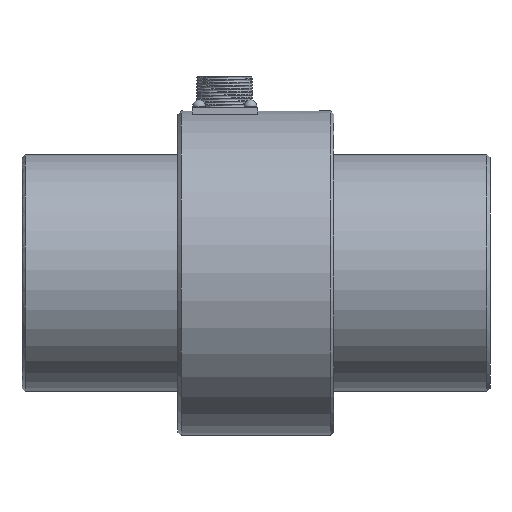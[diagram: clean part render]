
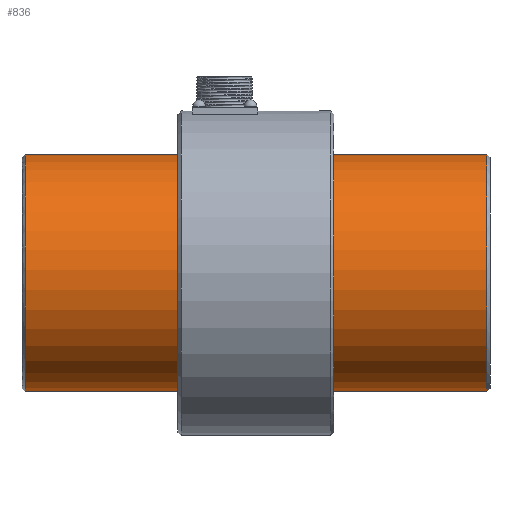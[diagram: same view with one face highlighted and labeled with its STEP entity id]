
A CAD part, top view. The second image highlights one B-rep face of the part: STEP entity #836.
In plain terms, the highlighted cylindrical face has radius 38 mm (diameter 76 mm), a full revolution.
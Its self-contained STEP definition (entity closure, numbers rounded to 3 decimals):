
#96=FACE_OUTER_BOUND('',#151,.T.);
#151=EDGE_LOOP('',(#687,#688,#689,#690,#691,#692,#693,#694,#695,#696,#697,
#698));
#190=CIRCLE('',#938,38.);
#191=CIRCLE('',#939,38.);
#195=CIRCLE('',#944,38.);
#196=CIRCLE('',#945,38.);
#224=B_SPLINE_CURVE_WITH_KNOTS('',3,(#3385,#3386,#3387,#3388,#3389,#3390,
#3391,#3392,#3393,#3394,#3395,#3396,#3397,#3398,#3399,#3400,#3401,#3402),
 .UNSPECIFIED.,.F.,.F.,(4,2,2,2,2,2,2,2,4),(-3.029,-2.65,
-2.272,-1.893,-1.514,-1.136,
-0.757,-0.379,0.),.UNSPECIFIED.);
#225=B_SPLINE_CURVE_WITH_KNOTS('',3,(#3407,#3408,#3409,#3410,#3411,#3412,
#3413,#3414,#3415,#3416,#3417,#3418,#3419,#3420,#3421,#3422,#3423,#3424),
 .UNSPECIFIED.,.F.,.F.,(4,2,2,2,2,2,2,2,4),(-6.058,-5.679,
-5.301,-4.922,-4.543,-4.165,
-3.786,-3.408,-3.029),.UNSPECIFIED.);
#256=LINE('',#3381,#305);
#257=LINE('',#3383,#306);
#258=LINE('',#3403,#307);
#259=LINE('',#3405,#308);
#260=LINE('',#3425,#309);
#305=VECTOR('',#1144,38.);
#306=VECTOR('',#1145,1000.);
#307=VECTOR('',#1146,1000.);
#308=VECTOR('',#1147,1000.);
#309=VECTOR('',#1148,1000.);
#381=VERTEX_POINT('',#3362);
#382=VERTEX_POINT('',#3364);
#383=VERTEX_POINT('',#3366);
#386=VERTEX_POINT('',#3373);
#387=VERTEX_POINT('',#3375);
#388=VERTEX_POINT('',#3377);
#389=VERTEX_POINT('',#3382);
#390=VERTEX_POINT('',#3384);
#391=VERTEX_POINT('',#3404);
#392=VERTEX_POINT('',#3406);
#484=EDGE_CURVE('',#382,#381,#190,.T.);
#485=EDGE_CURVE('',#383,#382,#191,.T.);
#489=EDGE_CURVE('',#387,#386,#195,.T.);
#490=EDGE_CURVE('',#388,#387,#196,.T.);
#492=EDGE_CURVE('',#382,#387,#256,.T.);
#493=EDGE_CURVE('',#386,#389,#257,.T.);
#494=EDGE_CURVE('',#389,#390,#224,.T.);
#495=EDGE_CURVE('',#390,#388,#258,.T.);
#496=EDGE_CURVE('',#381,#391,#259,.T.);
#497=EDGE_CURVE('',#391,#392,#225,.T.);
#498=EDGE_CURVE('',#392,#383,#260,.T.);
#687=ORIENTED_EDGE('',*,*,#485,.T.);
#688=ORIENTED_EDGE('',*,*,#492,.T.);
#689=ORIENTED_EDGE('',*,*,#489,.T.);
#690=ORIENTED_EDGE('',*,*,#493,.T.);
#691=ORIENTED_EDGE('',*,*,#494,.T.);
#692=ORIENTED_EDGE('',*,*,#495,.T.);
#693=ORIENTED_EDGE('',*,*,#490,.T.);
#694=ORIENTED_EDGE('',*,*,#492,.F.);
#695=ORIENTED_EDGE('',*,*,#484,.T.);
#696=ORIENTED_EDGE('',*,*,#496,.T.);
#697=ORIENTED_EDGE('',*,*,#497,.T.);
#698=ORIENTED_EDGE('',*,*,#498,.T.);
#761=CYLINDRICAL_SURFACE('',#947,38.);
#836=ADVANCED_FACE('',(#96),#761,.T.);
#938=AXIS2_PLACEMENT_3D('',#3365,#1124,#1125);
#939=AXIS2_PLACEMENT_3D('',#3367,#1126,#1127);
#944=AXIS2_PLACEMENT_3D('',#3376,#1136,#1137);
#945=AXIS2_PLACEMENT_3D('',#3378,#1138,#1139);
#947=AXIS2_PLACEMENT_3D('',#3380,#1142,#1143);
#1124=DIRECTION('center_axis',(1.,0.,0.));
#1125=DIRECTION('ref_axis',(0.,0.,-1.));
#1126=DIRECTION('center_axis',(1.,0.,0.));
#1127=DIRECTION('ref_axis',(0.,0.,-1.));
#1136=DIRECTION('center_axis',(-1.,0.,0.));
#1137=DIRECTION('ref_axis',(0.,0.,-1.));
#1138=DIRECTION('center_axis',(-1.,0.,0.));
#1139=DIRECTION('ref_axis',(0.,0.,-1.));
#1142=DIRECTION('center_axis',(-1.,0.,0.));
#1143=DIRECTION('ref_axis',(0.,0.,1.));
#1144=DIRECTION('',(1.,0.,0.));
#1145=DIRECTION('',(-1.,0.,0.));
#1146=DIRECTION('',(1.,0.,0.));
#1147=DIRECTION('',(1.,0.,0.));
#1148=DIRECTION('',(-1.,0.,0.));
#3362=CARTESIAN_POINT('',(-74.,36.661,-10.));
#3364=CARTESIAN_POINT('',(-74.,0.,-38.));
#3365=CARTESIAN_POINT('Origin',(-74.,0.,0.));
#3366=CARTESIAN_POINT('',(-74.,36.661,10.));
#3367=CARTESIAN_POINT('Origin',(-74.,0.,0.));
#3373=CARTESIAN_POINT('',(74.,36.661,10.));
#3375=CARTESIAN_POINT('',(74.,0.,-38.));
#3376=CARTESIAN_POINT('Origin',(74.,0.,0.));
#3377=CARTESIAN_POINT('',(74.,36.661,-10.));
#3378=CARTESIAN_POINT('Origin',(74.,0.,0.));
#3380=CARTESIAN_POINT('Origin',(75.,0.,0.));
#3381=CARTESIAN_POINT('',(75.,0.,-38.));
#3382=CARTESIAN_POINT('',(35.,36.661,10.));
#3383=CARTESIAN_POINT('',(75.,36.661,10.));
#3384=CARTESIAN_POINT('',(35.,36.661,-10.));
#3385=CARTESIAN_POINT('Ctrl Pts',(35.,36.661,10.));
#3386=CARTESIAN_POINT('Ctrl Pts',(33.738,36.661,10.));
#3387=CARTESIAN_POINT('Ctrl Pts',(32.396,36.733,9.747));
#3388=CARTESIAN_POINT('Ctrl Pts',(29.934,36.989,8.724));
#3389=CARTESIAN_POINT('Ctrl Pts',(28.814,37.169,7.956));
#3390=CARTESIAN_POINT('Ctrl Pts',(27.044,37.504,6.187));
#3391=CARTESIAN_POINT('Ctrl Pts',(26.276,37.681,5.066));
#3392=CARTESIAN_POINT('Ctrl Pts',(25.253,37.931,2.604));
#3393=CARTESIAN_POINT('Ctrl Pts',(25.,38.,1.262));
#3394=CARTESIAN_POINT('Ctrl Pts',(25.,38.,-1.262));
#3395=CARTESIAN_POINT('Ctrl Pts',(25.253,37.931,-2.604));
#3396=CARTESIAN_POINT('Ctrl Pts',(26.276,37.681,-5.066));
#3397=CARTESIAN_POINT('Ctrl Pts',(27.044,37.504,-6.187));
#3398=CARTESIAN_POINT('Ctrl Pts',(28.814,37.169,-7.956));
#3399=CARTESIAN_POINT('Ctrl Pts',(29.934,36.989,-8.724));
#3400=CARTESIAN_POINT('Ctrl Pts',(32.396,36.733,-9.747));
#3401=CARTESIAN_POINT('Ctrl Pts',(33.738,36.661,-10.));
#3402=CARTESIAN_POINT('Ctrl Pts',(35.,36.661,-10.));
#3403=CARTESIAN_POINT('',(75.,36.661,-10.));
#3404=CARTESIAN_POINT('',(-35.,36.661,-10.));
#3405=CARTESIAN_POINT('',(75.,36.661,-10.));
#3406=CARTESIAN_POINT('',(-35.,36.661,10.));
#3407=CARTESIAN_POINT('Ctrl Pts',(-35.,36.661,-10.));
#3408=CARTESIAN_POINT('Ctrl Pts',(-33.738,36.661,-10.));
#3409=CARTESIAN_POINT('Ctrl Pts',(-32.396,36.733,-9.747));
#3410=CARTESIAN_POINT('Ctrl Pts',(-29.934,36.989,-8.724));
#3411=CARTESIAN_POINT('Ctrl Pts',(-28.814,37.169,-7.956));
#3412=CARTESIAN_POINT('Ctrl Pts',(-27.044,37.504,-6.187));
#3413=CARTESIAN_POINT('Ctrl Pts',(-26.276,37.681,-5.066));
#3414=CARTESIAN_POINT('Ctrl Pts',(-25.253,37.931,-2.604));
#3415=CARTESIAN_POINT('Ctrl Pts',(-25.,38.,-1.262));
#3416=CARTESIAN_POINT('Ctrl Pts',(-25.,38.,1.262));
#3417=CARTESIAN_POINT('Ctrl Pts',(-25.253,37.931,2.604));
#3418=CARTESIAN_POINT('Ctrl Pts',(-26.276,37.681,5.066));
#3419=CARTESIAN_POINT('Ctrl Pts',(-27.044,37.504,6.187));
#3420=CARTESIAN_POINT('Ctrl Pts',(-28.814,37.169,7.956));
#3421=CARTESIAN_POINT('Ctrl Pts',(-29.934,36.989,8.724));
#3422=CARTESIAN_POINT('Ctrl Pts',(-32.396,36.733,9.747));
#3423=CARTESIAN_POINT('Ctrl Pts',(-33.738,36.661,10.));
#3424=CARTESIAN_POINT('Ctrl Pts',(-35.,36.661,10.));
#3425=CARTESIAN_POINT('',(75.,36.661,10.));
